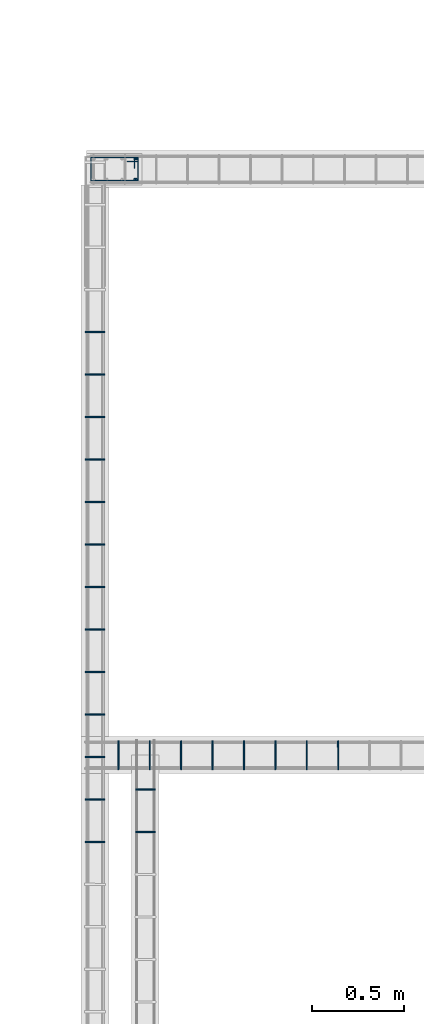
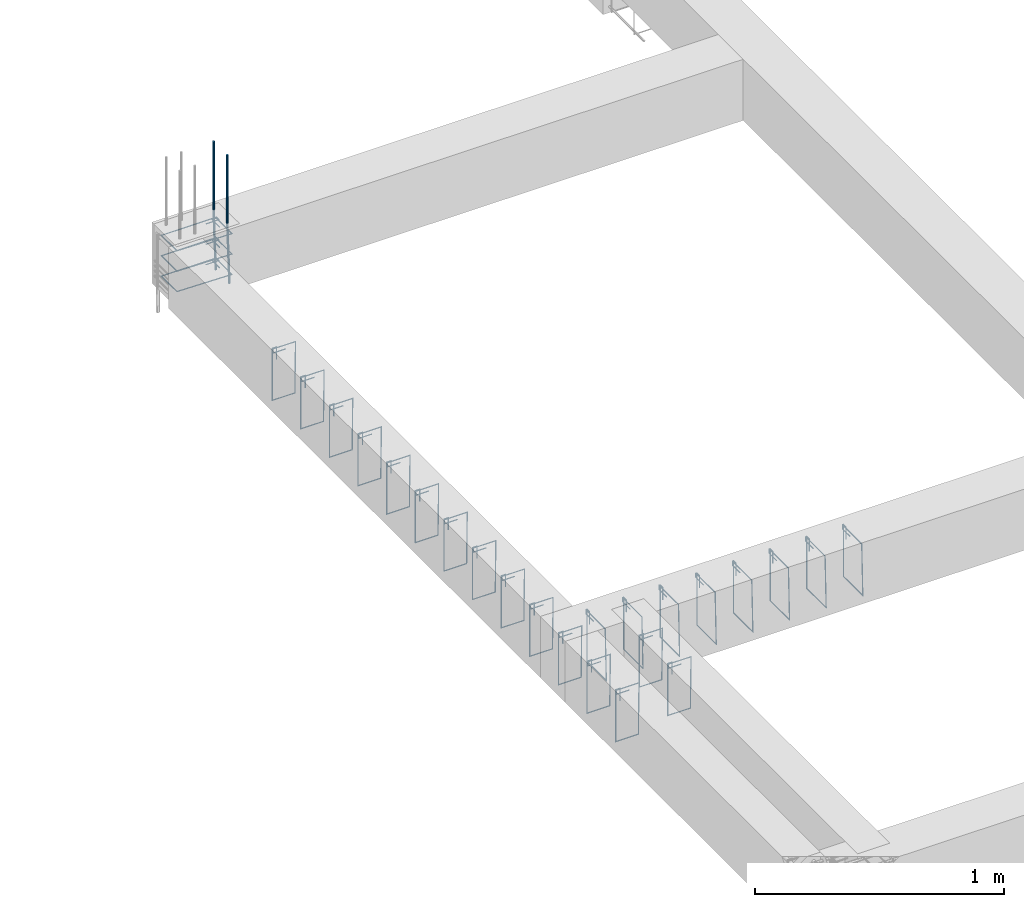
# One storey, part 129 of 150: 28 reinforcing bars.
"""IFC4 building model written with IfcOpenShell, lengths in centimetres."""

from ifc_helpers import new_model, entity, si_unit, derived_unit, frame, origin_with_axes, place, context, project, spatial, source, transform, mapped, element, save


model = new_model("IFC4")

# Units and contexts
model_context = context("Model", 3, precision=1e-05, world=origin_with_axes(), identifier="Body")
ifc_project = project(units=[si_unit("LENGTHUNIT", "METRE", prefix="CENTI"), si_unit("VOLUMEUNIT", "CUBIC_METRE"), si_unit("AREAUNIT", "SQUARE_METRE"), si_unit("POWERUNIT", "WATT"), si_unit("LUMINOUSFLUXUNIT", "LUMEN"), si_unit("ELECTRICCURRENTUNIT", "AMPERE"), si_unit("PRESSUREUNIT", "PASCAL", prefix="KILO"), si_unit("MASSUNIT", "GRAM", prefix="KILO"), si_unit("PLANEANGLEUNIT", "RADIAN"), derived_unit("VOLUMETRICFLOWRATEUNIT", [(si_unit("LENGTHUNIT", "METRE"), 3), (si_unit("TIMEUNIT", "SECOND"), -1)])], contexts=[model_context])

# Site, building, storey
site_placement = place(None, frame((-4000.0, 0.0, 0.0), z_axis=(0.0, 0.0, 1.0), x_axis=(1.0, 0.0, 0.0)))
site = spatial("IfcSite", under=ifc_project, at=site_placement, Name="PADRÃO")
building_placement = place(site_placement, frame((0.0, 0.0, -14.0)))
building = spatial("IfcBuilding", under=site, at=building_placement, Name="CRECHE PRÉ-ESCOLA TIPO 2")
placement = place(building_placement, origin_with_axes())
storey_placement = place(placement, frame((0.0, 0.0, 30.0), z_axis=(0.0, 0.0, 1.0), x_axis=(1.0, 0.0, 0.0)))
storey = spatial("IfcBuildingStorey", under=building, at=storey_placement, Name="VIGA BALDRAME", CompositionType="ELEMENT", Elevation=16.0)

# Reinforcing bars
shared_shape_1 = source(origin_with_axes(), model_context, "Body", "AdvancedSweptSolid", [
    entity("IfcSweptDiskSolid", entity("IfcCompositeCurve", [entity("IfcCompositeCurveSegment", "CONTINUOUS", True, entity("IfcPolyline", [entity("IfcCartesianPoint", [4.25, 21.75, 0.0]), entity("IfcCartesianPoint", [4.25, 27.75, 0.0])])), entity("IfcCompositeCurveSegment", "CONTINUOUS", True, entity("IfcPolyline", [entity("IfcCartesianPoint", [4.25, 27.75, 0.0]), entity("IfcCartesianPoint", [2.25, 27.75, 0.0])])), entity("IfcCompositeCurveSegment", "CONTINUOUS", True, entity("IfcPolyline", [entity("IfcCartesianPoint", [2.25, 27.75, 0.0]), entity("IfcCartesianPoint", [2.25, 2.25, 0.0])])), entity("IfcCompositeCurveSegment", "CONTINUOUS", True, entity("IfcPolyline", [entity("IfcCartesianPoint", [2.25, 2.25, 0.0]), entity("IfcCartesianPoint", [14.75, 2.25, 0.0])])), entity("IfcCompositeCurveSegment", "CONTINUOUS", True, entity("IfcPolyline", [entity("IfcCartesianPoint", [14.75, 2.25, 0.0]), entity("IfcCartesianPoint", [14.75, 27.75, -0.5])])), entity("IfcCompositeCurveSegment", "CONTINUOUS", True, entity("IfcPolyline", [entity("IfcCartesianPoint", [14.75, 27.75, -0.5]), entity("IfcCartesianPoint", [2.25, 27.75, -0.5])])), entity("IfcCompositeCurveSegment", "CONTINUOUS", True, entity("IfcPolyline", [entity("IfcCartesianPoint", [2.25, 27.75, -0.5]), entity("IfcCartesianPoint", [2.25, 25.75, -0.5])])), entity("IfcCompositeCurveSegment", "CONTINUOUS", True, entity("IfcPolyline", [entity("IfcCartesianPoint", [2.25, 25.75, -0.5]), entity("IfcCartesianPoint", [8.25, 25.75, -0.5])]))], False), 0.25),
])
for number, where, z_axis, x_axis, name in (
    (1, (2251.76, 3993.5, -5.0), (0.0, 0.0, 1.0), (0.0, -1.0, 0.0), "P26 - Estribo"),
    (2, (2251.76, 3993.5, -15.0), (0.0, 0.0, 1.0), (0.0, -1.0, 0.0), "P26 - Estribo"),
    (3, (2251.76, 3993.5, -25.0), (0.0, 0.0, 1.0), (0.0, -1.0, 0.0), "P26 - Estribo"),
):
    element("IfcReinforcingBar", number, at=place(storey_placement, frame(where, z_axis=z_axis, x_axis=x_axis)), inside=storey, Name=name, BarLength=0.0, CrossSectionArea=1.9634954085e-05, NominalDiameter=0.5, PredefinedType="MAIN", context=model_context, shape_type="MappedRepresentation", body=[
        mapped(shared_shape_1, transform((0.0, 0.0, 0.0), scale=1.0)),
    ])
shared_shape_2 = source(origin_with_axes(), model_context, "Body", "AdvancedSweptSolid", [
    entity("IfcSweptDiskSolid", entity("IfcCompositeCurve", [entity("IfcCompositeCurveSegment", "CONTINUOUS", True, entity("IfcPolyline", [entity("IfcCartesianPoint", [2.0, -6.0, 0.0]), entity("IfcCartesianPoint", [2.0, 0.0, 0.0])])), entity("IfcCompositeCurveSegment", "CONTINUOUS", True, entity("IfcPolyline", [entity("IfcCartesianPoint", [2.0, 0.0, 0.0]), entity("IfcCartesianPoint", [0.0, 0.0, 0.0])])), entity("IfcCompositeCurveSegment", "CONTINUOUS", True, entity("IfcPolyline", [entity("IfcCartesianPoint", [0.0, 0.0, 0.0]), entity("IfcCartesianPoint", [0.0, -25.5, 0.0])])), entity("IfcCompositeCurveSegment", "CONTINUOUS", True, entity("IfcPolyline", [entity("IfcCartesianPoint", [0.0, -25.5, 0.0]), entity("IfcCartesianPoint", [10.5, -25.5, 0.0])])), entity("IfcCompositeCurveSegment", "CONTINUOUS", True, entity("IfcPolyline", [entity("IfcCartesianPoint", [10.5, -25.5, 0.0]), entity("IfcCartesianPoint", [10.5, 0.0, 0.5])])), entity("IfcCompositeCurveSegment", "CONTINUOUS", True, entity("IfcPolyline", [entity("IfcCartesianPoint", [10.5, 0.0, 0.5]), entity("IfcCartesianPoint", [0.0, 0.0, 0.5])])), entity("IfcCompositeCurveSegment", "CONTINUOUS", True, entity("IfcPolyline", [entity("IfcCartesianPoint", [0.0, 0.0, 0.5]), entity("IfcCartesianPoint", [0.0, -2.0, 0.5])])), entity("IfcCompositeCurveSegment", "CONTINUOUS", True, entity("IfcPolyline", [entity("IfcCartesianPoint", [0.0, -2.0, 0.5]), entity("IfcCartesianPoint", [6.0, -2.0, 0.5])]))], False), 0.25),
])
for number, where, z_axis, x_axis, name in (
    (4, (2251.01, 3759.01, -2.25), (0.0, -1.0, 0.0), (1.0, 0.0, 0.0), "V193 - Estribo"),
    (5, (2251.01, 3736.01, -2.25), (0.0, -1.0, 0.0), (1.0, 0.0, 0.0), "V193 - Estribo"),
    (6, (2251.01, 3713.01, -2.25), (0.0, -1.0, 0.0), (1.0, 0.0, 0.0), "V193 - Estribo"),
    (7, (2251.01, 3828.01, -2.25), (0.0, -1.0, 0.0), (1.0, 0.0, 0.0), "V193 - Estribo"),
    (8, (2251.01, 3690.01, -2.25), (0.0, -1.0, 0.0), (1.0, 0.0, 0.0), "V193 - Estribo"),
    (9, (2251.01, 3667.01, -2.25), (0.0, -1.0, 0.0), (1.0, 0.0, 0.0), "V193 - Estribo"),
    (10, (2251.01, 3644.01, -2.25), (0.0, -1.0, 0.0), (1.0, 0.0, 0.0), "V193 - Estribo"),
    (11, (2251.01, 3621.01, -2.25), (0.0, -1.0, 0.0), (1.0, 0.0, 0.0), "V193 - Estribo"),
    (12, (2251.01, 3782.01, -2.25), (0.0, -1.0, 0.0), (1.0, 0.0, 0.0), "V193 - Estribo"),
    (13, (2251.01, 3805.01, -2.25), (0.0, -1.0, 0.0), (1.0, 0.0, 0.0), "V193 - Estribo"),
    (14, (2251.01, 3851.01, -2.25), (0.0, -1.0, 0.0), (1.0, 0.0, 0.0), "V193 - Estribo"),
    (15, (2251.01, 3874.01, -2.25), (0.0, -1.0, 0.0), (1.0, 0.0, 0.0), "V193 - Estribo"),
    (16, (2251.01, 3897.01, -2.25), (0.0, -1.0, 0.0), (1.0, 0.0, 0.0), "V193 - Estribo"),
):
    element("IfcReinforcingBar", number, at=place(storey_placement, frame(where, z_axis=z_axis, x_axis=x_axis)), inside=storey, Name=name, BarLength=0.0, CrossSectionArea=1.9634954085e-05, NominalDiameter=0.5, PredefinedType="MAIN", context=model_context, shape_type="MappedRepresentation", body=[
        mapped(shared_shape_2, transform((0.0, 0.0, 0.0), scale=1.0)),
    ])
shared_shape_3 = source(origin_with_axes(), model_context, "Body", "AdvancedSweptSolid", [
    entity("IfcSweptDiskSolid", entity("IfcCompositeCurve", [entity("IfcCompositeCurveSegment", "CONTINUOUS", True, entity("IfcPolyline", [entity("IfcCartesianPoint", [2.0, -6.0, 0.0]), entity("IfcCartesianPoint", [2.0, 0.0, 0.0])])), entity("IfcCompositeCurveSegment", "CONTINUOUS", True, entity("IfcPolyline", [entity("IfcCartesianPoint", [2.0, 0.0, 0.0]), entity("IfcCartesianPoint", [0.0, 0.0, 0.0])])), entity("IfcCompositeCurveSegment", "CONTINUOUS", True, entity("IfcPolyline", [entity("IfcCartesianPoint", [0.0, 0.0, 0.0]), entity("IfcCartesianPoint", [0.0, -25.5, 0.0])])), entity("IfcCompositeCurveSegment", "CONTINUOUS", True, entity("IfcPolyline", [entity("IfcCartesianPoint", [0.0, -25.5, 0.0]), entity("IfcCartesianPoint", [15.5, -25.5, 0.0])])), entity("IfcCompositeCurveSegment", "CONTINUOUS", True, entity("IfcPolyline", [entity("IfcCartesianPoint", [15.5, -25.5, 0.0]), entity("IfcCartesianPoint", [15.5, 0.0, 0.5])])), entity("IfcCompositeCurveSegment", "CONTINUOUS", True, entity("IfcPolyline", [entity("IfcCartesianPoint", [15.5, 0.0, 0.5]), entity("IfcCartesianPoint", [0.0, 0.0, 0.5])])), entity("IfcCompositeCurveSegment", "CONTINUOUS", True, entity("IfcPolyline", [entity("IfcCartesianPoint", [0.0, 0.0, 0.5]), entity("IfcCartesianPoint", [0.0, -2.0, 0.5])])), entity("IfcCompositeCurveSegment", "CONTINUOUS", True, entity("IfcPolyline", [entity("IfcCartesianPoint", [0.0, -2.0, 0.5]), entity("IfcCartesianPoint", [6.0, -2.0, 0.5])]))], False), 0.25),
])
for number, where, z_axis, x_axis, name in (
    (17, (2354.12928975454, 3675.48659385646, -2.25), (-1.0, -9.222061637e-05, 0.0), (9.222061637e-05, -1.0, 0.0), "V109 - Estribo"),
    (18, (2388.12928960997, 3675.48972935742, -2.25), (-1.0, -9.222061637e-05, 0.0), (9.222061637e-05, -1.0, 0.0), "V109 - Estribo"),
    (19, (2371.12928968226, 3675.48816160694, -2.25), (-1.0, -9.222061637e-05, 0.0), (9.222061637e-05, -1.0, 0.0), "V109 - Estribo"),
    (20, (2320.12928989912, 3675.4834583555, -2.25), (-1.0, -9.222061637e-05, 0.0), (9.222061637e-05, -1.0, 0.0), "V109 - Estribo"),
    (21, (2337.12928982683, 3675.48502610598, -2.25), (-1.0, -9.222061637e-05, 0.0), (9.222061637e-05, -1.0, 0.0), "V109 - Estribo"),
    (22, (2286.1292900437, 3675.48032285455, -2.25), (-1.0, -9.222061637e-05, 0.0), (9.222061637e-05, -1.0, 0.0), "V109 - Estribo"),
    (23, (2303.12928997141, 3675.48189060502, -2.25), (-1.0, -9.222061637e-05, 0.0), (9.222061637e-05, -1.0, 0.0), "V109 - Estribo"),
    (24, (2269.12929011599, 3675.47875510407, -2.25), (-1.0, -9.222061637e-05, 0.0), (9.222061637e-05, -1.0, 0.0), "V109 - Estribo"),
):
    element("IfcReinforcingBar", number, at=place(storey_placement, frame(where, z_axis=z_axis, x_axis=x_axis)), inside=storey, Name=name, BarLength=0.0, CrossSectionArea=1.9634954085e-05, NominalDiameter=0.5, PredefinedType="MAIN", context=model_context, shape_type="MappedRepresentation", body=[
        mapped(shared_shape_3, transform((0.0, 0.0, 0.0), scale=1.0)),
    ])
shared_shape_4 = source(origin_with_axes(), model_context, "Body", "AdvancedSweptSolid", [
    entity("IfcSweptDiskSolid", entity("IfcCompositeCurve", [entity("IfcCompositeCurveSegment", "CONTINUOUS", True, entity("IfcPolyline", [entity("IfcCartesianPoint", [2.0, -6.0, 0.0]), entity("IfcCartesianPoint", [2.0, 0.0, 0.0])])), entity("IfcCompositeCurveSegment", "CONTINUOUS", True, entity("IfcPolyline", [entity("IfcCartesianPoint", [2.0, 0.0, 0.0]), entity("IfcCartesianPoint", [0.0, 0.0, 0.0])])), entity("IfcCompositeCurveSegment", "CONTINUOUS", True, entity("IfcPolyline", [entity("IfcCartesianPoint", [0.0, 0.0, 0.0]), entity("IfcCartesianPoint", [0.0, -25.5, 0.0])])), entity("IfcCompositeCurveSegment", "CONTINUOUS", True, entity("IfcPolyline", [entity("IfcCartesianPoint", [0.0, -25.5, 0.0]), entity("IfcCartesianPoint", [10.5, -25.5, 0.0])])), entity("IfcCompositeCurveSegment", "CONTINUOUS", True, entity("IfcPolyline", [entity("IfcCartesianPoint", [10.5, -25.5, 0.0]), entity("IfcCartesianPoint", [10.5, 0.0, 0.5])])), entity("IfcCompositeCurveSegment", "CONTINUOUS", True, entity("IfcPolyline", [entity("IfcCartesianPoint", [10.5, 0.0, 0.5]), entity("IfcCartesianPoint", [0.0, 0.0, 0.5])])), entity("IfcCompositeCurveSegment", "CONTINUOUS", True, entity("IfcPolyline", [entity("IfcCartesianPoint", [0.0, 0.0, 0.5]), entity("IfcCartesianPoint", [0.0, -2.0, 0.5])])), entity("IfcCompositeCurveSegment", "CONTINUOUS", True, entity("IfcPolyline", [entity("IfcCartesianPoint", [0.0, -2.0, 0.5]), entity("IfcCartesianPoint", [6.0, -2.0, 0.5])]))], False), 0.25),
])
for number, where, z_axis, x_axis, name in (
    (25, (2278.25, 3626.385, -2.25), (0.0, -1.0, 0.0), (1.0, 0.0, 0.0), "V192 - Estribo"),
    (26, (2278.25, 3649.385, -2.25), (0.0, -1.0, 0.0), (1.0, 0.0, 0.0), "V192 - Estribo"),
):
    element("IfcReinforcingBar", number, at=place(storey_placement, frame(where, z_axis=z_axis, x_axis=x_axis)), inside=storey, Name=name, BarLength=0.0, CrossSectionArea=1.9634954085e-05, NominalDiameter=0.5, PredefinedType="MAIN", context=model_context, shape_type="MappedRepresentation", body=[
        mapped(shared_shape_4, transform((0.0, 0.0, 0.0), scale=1.0)),
    ])
for number, where, z_axis, x_axis, name in (
    (27, (2278.25986122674, 3979.5, 33.3573001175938), (0.0, 0.0, 1.0), (1.0, 0.0, 0.0), "P26 - Longitudinal"),
    (28, (2278.25986122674, 3990.5, 33.3573001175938), (0.0, 0.0, 1.0), (1.0, 0.0, 0.0), "P26 - Longitudinal"),
):
    element("IfcReinforcingBar", number, at=place(storey_placement, frame(where, z_axis=z_axis, x_axis=x_axis)), inside=storey, Name=name, BarLength=0.0, CrossSectionArea=7.853981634e-05, NominalDiameter=1.0, PredefinedType="MAIN", context=model_context, shape_type="AdvancedSweptSolid", body=[
        entity("IfcSweptDiskSolid", entity("IfcCompositeCurve", [entity("IfcCompositeCurveSegment", "CONTINUOUS", True, entity("IfcPolyline", [entity("IfcCartesianPoint", [0.500138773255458, 0.0, -63.3573001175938]), entity("IfcCartesianPoint", [-0.499861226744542, 0.0, -33.3573001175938])])), entity("IfcCompositeCurveSegment", "CONTINUOUS", True, entity("IfcPolyline", [entity("IfcCartesianPoint", [-0.499861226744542, 0.0, -33.3573001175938]), entity("IfcCartesianPoint", [-0.499861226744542, 0.0, 0.0])]))], False), 0.5),
    ])

save(model, "model.ifc")
